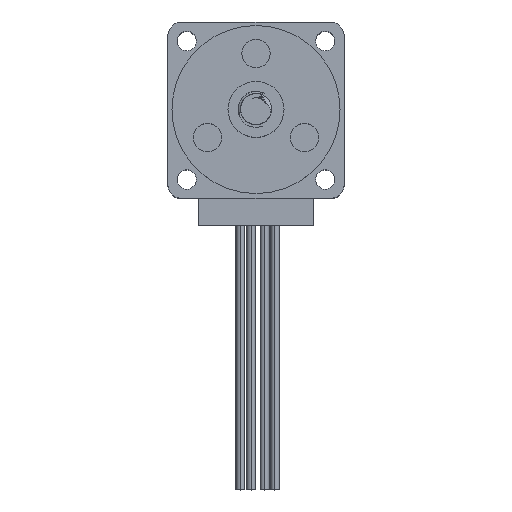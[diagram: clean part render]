
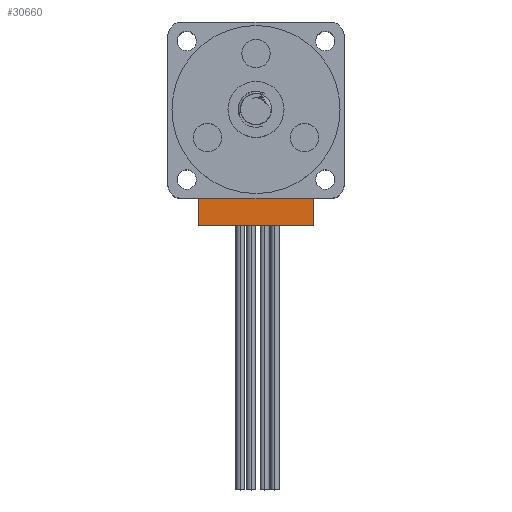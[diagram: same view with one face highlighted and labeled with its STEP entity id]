
A CAD part, top view. The second image highlights one B-rep face of the part: STEP entity #30660.
In plain terms, the highlighted planar face has unit normal (0, 0, 1).
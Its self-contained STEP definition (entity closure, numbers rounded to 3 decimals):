
#201 = PLANE('',#202);
#202 = AXIS2_PLACEMENT_3D('',#203,#204,#205);
#203 = CARTESIAN_POINT('',(6.5,-13.,-11.));
#204 = DIRECTION('',(0.,1.,0.));
#205 = DIRECTION('',(0.,0.,1.));
#27861 = VERTEX_POINT('',#27862);
#27862 = CARTESIAN_POINT('',(6.5,-13.,-11.));
#27876 = PLANE('',#27877);
#27877 = AXIS2_PLACEMENT_3D('',#27878,#27879,#27880);
#27878 = CARTESIAN_POINT('',(6.5,-13.,-16.));
#27879 = DIRECTION('',(-1.,0.,0.));
#27880 = DIRECTION('',(0.,0.,1.));
#27888 = EDGE_CURVE('',#27861,#27889,#27891,.T.);
#27889 = VERTEX_POINT('',#27890);
#27890 = CARTESIAN_POINT('',(-6.5,-13.,-11.));
#27891 = SURFACE_CURVE('',#27892,(#27896,#27903),.PCURVE_S1.);
#27892 = LINE('',#27893,#27894);
#27893 = CARTESIAN_POINT('',(-6.5,-13.,-11.));
#27894 = VECTOR('',#27895,1.);
#27895 = DIRECTION('',(-1.,0.,0.));
#27896 = PCURVE('',#201,#27897);
#27897 = DEFINITIONAL_REPRESENTATION('',(#27898),#27902);
#27898 = LINE('',#27899,#27900);
#27899 = CARTESIAN_POINT('',(0.,-13.));
#27900 = VECTOR('',#27901,1.);
#27901 = DIRECTION('',(0.,-1.));
#27902 = ( GEOMETRIC_REPRESENTATION_CONTEXT(2) 
PARAMETRIC_REPRESENTATION_CONTEXT() REPRESENTATION_CONTEXT('2D SPACE',''
  ) );
#27903 = PCURVE('',#27904,#27909);
#27904 = PLANE('',#27905);
#27905 = AXIS2_PLACEMENT_3D('',#27906,#27907,#27908);
#27906 = CARTESIAN_POINT('',(-6.5,-13.,-11.));
#27907 = DIRECTION('',(0.,0.,-1.));
#27908 = DIRECTION('',(-1.,0.,0.));
#27909 = DEFINITIONAL_REPRESENTATION('',(#27910),#27914);
#27910 = LINE('',#27911,#27912);
#27911 = CARTESIAN_POINT('',(0.,0.));
#27912 = VECTOR('',#27913,1.);
#27913 = DIRECTION('',(1.,0.));
#27914 = ( GEOMETRIC_REPRESENTATION_CONTEXT(2) 
PARAMETRIC_REPRESENTATION_CONTEXT() REPRESENTATION_CONTEXT('2D SPACE',''
  ) );
#27932 = PLANE('',#27933);
#27933 = AXIS2_PLACEMENT_3D('',#27934,#27935,#27936);
#27934 = CARTESIAN_POINT('',(-6.5,-13.,-16.));
#27935 = DIRECTION('',(1.,0.,0.));
#27936 = DIRECTION('',(0.,0.,-1.));
#28497 = PLANE('',#28498);
#28498 = AXIS2_PLACEMENT_3D('',#28499,#28500,#28501);
#28499 = CARTESIAN_POINT('',(-8.4,-10.,19.));
#28500 = DIRECTION('',(0.,1.,0.));
#28501 = DIRECTION('',(0.,0.,1.));
#28749 = VERTEX_POINT('',#28750);
#28750 = CARTESIAN_POINT('',(6.5,-10.,-11.));
#28795 = VERTEX_POINT('',#28796);
#28796 = CARTESIAN_POINT('',(-6.5,-10.,-11.));
#28817 = EDGE_CURVE('',#28749,#28795,#28818,.T.);
#28818 = SURFACE_CURVE('',#28819,(#28823,#28830),.PCURVE_S1.);
#28819 = LINE('',#28820,#28821);
#28820 = CARTESIAN_POINT('',(-6.5,-10.,-11.));
#28821 = VECTOR('',#28822,1.);
#28822 = DIRECTION('',(-1.,0.,0.));
#28823 = PCURVE('',#28497,#28824);
#28824 = DEFINITIONAL_REPRESENTATION('',(#28825),#28829);
#28825 = LINE('',#28826,#28827);
#28826 = CARTESIAN_POINT('',(-30.,1.9));
#28827 = VECTOR('',#28828,1.);
#28828 = DIRECTION('',(0.,-1.));
#28829 = ( GEOMETRIC_REPRESENTATION_CONTEXT(2) 
PARAMETRIC_REPRESENTATION_CONTEXT() REPRESENTATION_CONTEXT('2D SPACE',''
  ) );
#28830 = PCURVE('',#27904,#28831);
#28831 = DEFINITIONAL_REPRESENTATION('',(#28832),#28836);
#28832 = LINE('',#28833,#28834);
#28833 = CARTESIAN_POINT('',(0.,3.));
#28834 = VECTOR('',#28835,1.);
#28835 = DIRECTION('',(1.,0.));
#28836 = ( GEOMETRIC_REPRESENTATION_CONTEXT(2) 
PARAMETRIC_REPRESENTATION_CONTEXT() REPRESENTATION_CONTEXT('2D SPACE',''
  ) );
#30618 = EDGE_CURVE('',#27861,#28749,#30619,.T.);
#30619 = SURFACE_CURVE('',#30620,(#30624,#30631),.PCURVE_S1.);
#30620 = LINE('',#30621,#30622);
#30621 = CARTESIAN_POINT('',(6.5,-13.,-11.));
#30622 = VECTOR('',#30623,1.);
#30623 = DIRECTION('',(0.,1.,0.));
#30624 = PCURVE('',#27876,#30625);
#30625 = DEFINITIONAL_REPRESENTATION('',(#30626),#30630);
#30626 = LINE('',#30627,#30628);
#30627 = CARTESIAN_POINT('',(5.,0.));
#30628 = VECTOR('',#30629,1.);
#30629 = DIRECTION('',(0.,1.));
#30630 = ( GEOMETRIC_REPRESENTATION_CONTEXT(2) 
PARAMETRIC_REPRESENTATION_CONTEXT() REPRESENTATION_CONTEXT('2D SPACE',''
  ) );
#30631 = PCURVE('',#27904,#30632);
#30632 = DEFINITIONAL_REPRESENTATION('',(#30633),#30637);
#30633 = LINE('',#30634,#30635);
#30634 = CARTESIAN_POINT('',(-13.,0.));
#30635 = VECTOR('',#30636,1.);
#30636 = DIRECTION('',(0.,1.));
#30637 = ( GEOMETRIC_REPRESENTATION_CONTEXT(2) 
PARAMETRIC_REPRESENTATION_CONTEXT() REPRESENTATION_CONTEXT('2D SPACE',''
  ) );
#30660 = ADVANCED_FACE('',(#30661),#27904,.F.);
#30661 = FACE_BOUND('',#30662,.T.);
#30662 = EDGE_LOOP('',(#30663,#30664,#30685,#30686));
#30663 = ORIENTED_EDGE('',*,*,#28817,.T.);
#30664 = ORIENTED_EDGE('',*,*,#30665,.F.);
#30665 = EDGE_CURVE('',#27889,#28795,#30666,.T.);
#30666 = SURFACE_CURVE('',#30667,(#30671,#30678),.PCURVE_S1.);
#30667 = LINE('',#30668,#30669);
#30668 = CARTESIAN_POINT('',(-6.5,-13.,-11.));
#30669 = VECTOR('',#30670,1.);
#30670 = DIRECTION('',(0.,1.,0.));
#30671 = PCURVE('',#27904,#30672);
#30672 = DEFINITIONAL_REPRESENTATION('',(#30673),#30677);
#30673 = LINE('',#30674,#30675);
#30674 = CARTESIAN_POINT('',(0.,0.));
#30675 = VECTOR('',#30676,1.);
#30676 = DIRECTION('',(0.,1.));
#30677 = ( GEOMETRIC_REPRESENTATION_CONTEXT(2) 
PARAMETRIC_REPRESENTATION_CONTEXT() REPRESENTATION_CONTEXT('2D SPACE',''
  ) );
#30678 = PCURVE('',#27932,#30679);
#30679 = DEFINITIONAL_REPRESENTATION('',(#30680),#30684);
#30680 = LINE('',#30681,#30682);
#30681 = CARTESIAN_POINT('',(-5.,0.));
#30682 = VECTOR('',#30683,1.);
#30683 = DIRECTION('',(0.,1.));
#30684 = ( GEOMETRIC_REPRESENTATION_CONTEXT(2) 
PARAMETRIC_REPRESENTATION_CONTEXT() REPRESENTATION_CONTEXT('2D SPACE',''
  ) );
#30685 = ORIENTED_EDGE('',*,*,#27888,.F.);
#30686 = ORIENTED_EDGE('',*,*,#30618,.T.);
